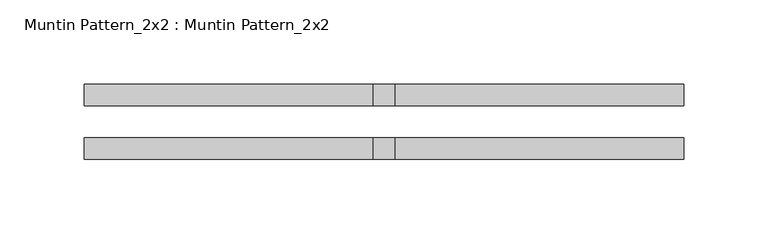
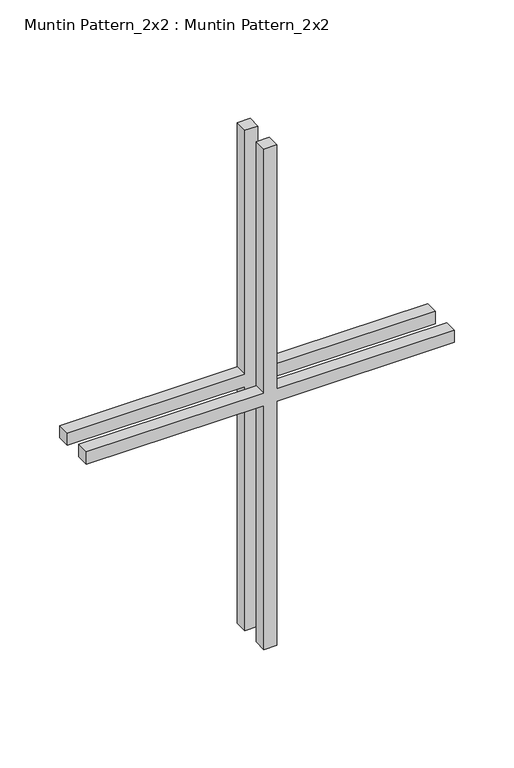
"""IFC4 building model written with IfcOpenShell, lengths in millimetres: proxy geometry, Muntin Pattern_2x2 : Muntin Pattern_2x2."""

from ifc_helpers import new_model, si_unit, frame, origin, place, context, project, spatial, polyline, outline, extrude, source, transform, mapped, element, save


def muntin_pattern_2x2_muntin_pattern_2x2_15a54056(model_context):
    return source(origin(), model_context, "Body", "SweptSolid", [
        extrude(outline(polyline([(261.9375, -6.35), (261.9375, -177.8), (249.2375, -177.8), (249.2375, -6.35), (0.0, -6.35), (0.0, 6.35), (249.2375, 6.35), (249.2375, 177.8), (261.9375, 177.8), (261.9375, 6.35), (511.175, 6.35), (511.175, -6.35), (261.9375, -6.35)])), frame((0.0, 9.525, 0.0), z_axis=(0.0, 1.0, 0.0), x_axis=(0.0, 0.0, 1.0)), (0.0, 0.0, 1.0), 12.7),
        extrude(outline(polyline([(261.9375, -6.35), (261.9375, -177.8), (249.2375, -177.8), (249.2375, -6.35), (0.0, -6.35), (0.0, 6.35), (249.2375, 6.35), (249.2375, 177.8), (261.9375, 177.8), (261.9375, 6.35), (511.175, 6.35), (511.175, -6.35), (261.9375, -6.35)])), frame((0.0, -22.225, 0.0), z_axis=(0.0, 1.0, 0.0), x_axis=(0.0, 0.0, 1.0)), (0.0, 0.0, 1.0), 12.7),
    ])


if __name__ == "__main__":
    model = new_model("IFC4")
    model_context = context("Model", 3, world=origin())
    ifc_project = project(units=[si_unit("LENGTHUNIT", "METRE", prefix="MILLI")], contexts=[model_context])
    site = spatial("IfcSite", under=ifc_project)
    building = spatial("IfcBuilding", under=site)
    placement = place(None, origin())
    muntin_pattern_2x2_muntin_pattern_2x2_shape = muntin_pattern_2x2_muntin_pattern_2x2_15a54056(model_context)
    element("IfcBuildingElementProxy", 1, Name="Muntin Pattern_2x2 : Muntin Pattern_2x2", ObjectType="Muntin Pattern_2x2 : Muntin Pattern_2x2", at=placement, inside=building, context=model_context, shape_type="MappedRepresentation", body=[
        mapped(muntin_pattern_2x2_muntin_pattern_2x2_shape, transform((0.0, 0.0, 0.0), x_axis=(1.0, 0.0, 0.0), y_axis=(0.0, 1.0, 0.0), z_axis=(0.0, 0.0, 1.0))),
    ])
    save(model, "model.ifc")
